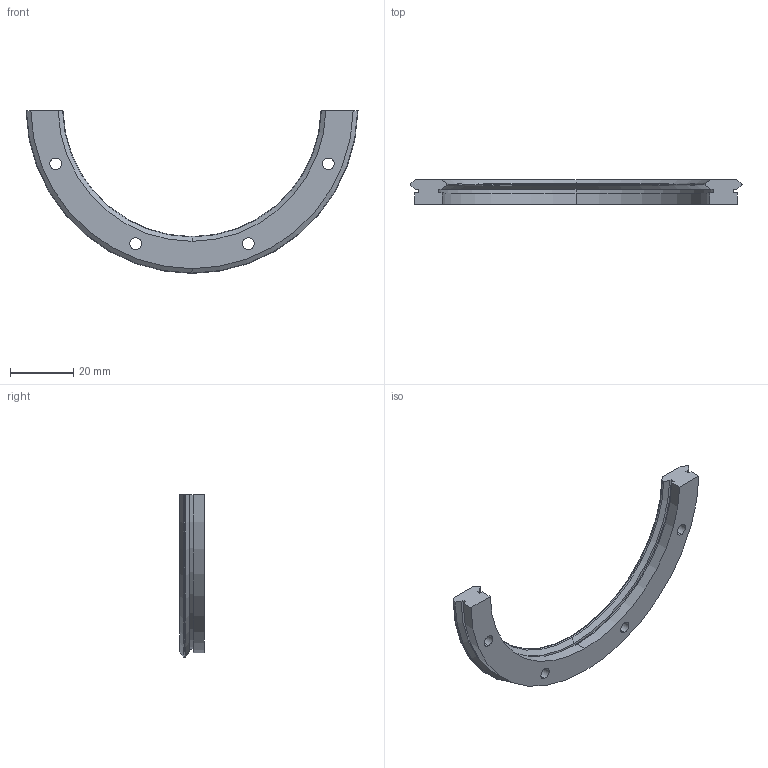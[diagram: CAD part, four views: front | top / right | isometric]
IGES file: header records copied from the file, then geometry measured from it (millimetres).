
Start section: 3D InterOp IGES (v. 2018 1.0.2), Spatial Corp. Copyright (c) 1999-2017.
Global section: file name: r12_93_r180.igs; native system: Spatial Corp.; preprocessor: 3D InterOp ACIS/IGES; author: TraceParts; organization: TraceParts S.A.; date: 20200814.185122; units: millimetre
Bounding box: 104.61 x 7.7 x 51.31 mm (x, y, z)
Surface area: 6185.8 mm2 (no closed solid volume)
Topology: 0 solids, 0 shells, 52 faces, 272 edges, 272 vertices
Faces by surface type: revolution 40, extrusion 12
